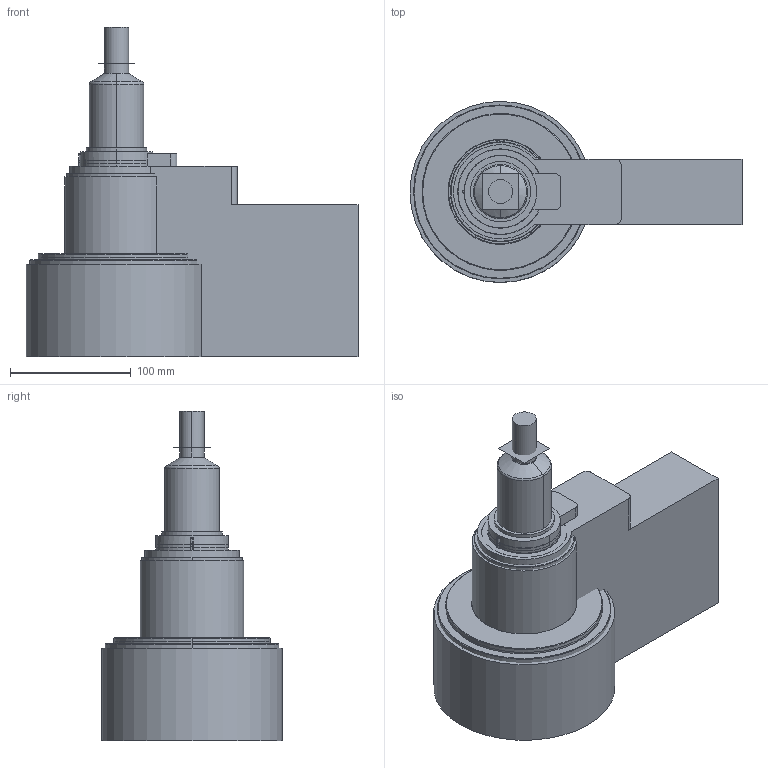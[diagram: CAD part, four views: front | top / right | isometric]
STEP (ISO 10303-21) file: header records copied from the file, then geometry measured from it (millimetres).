
FILE_DESCRIPTION (( 'STEP AP214' ), '1' );
FILE_NAME ('16SVP-06_VSP.STEP', '2021-08-16T08:19:09', ( '' ), ( '' ), 'SwSTEP 2.0', 'SolidWorks 2018', '' );
FILE_SCHEMA (( 'AUTOMOTIVE_DESIGN' ));
Length unit declared in the file: millimetre
Products named in the file (3): nozzle_VSP; cutout_VSP; 16SVP-06_VSP
Assembly tree (2 placements, depth 2):
  16SVP-06_VSP
    nozzle_VSP
    cutout_VSP
Bounding box: 275 x 149.99 x 273 mm (x, y, z)
Volume: 3057297.1 mm3; surface area: 653925.9 mm2
Topology: 1 solids, 47 shells, 2394 faces, 5957 edges, 3705 vertices
Faces by surface type: plane 863, cylinder 694, cone 366, bspline 287, torus 166, sphere 18
Entity records: 105897 total; most frequent: CARTESIAN_POINT 49507, ORIENTED_EDGE 11770, DIRECTION 11210, EDGE_CURVE 5887, AXIS2_PLACEMENT_3D 4246, VERTEX_POINT 3693, LINE 2718, VECTOR 2718
